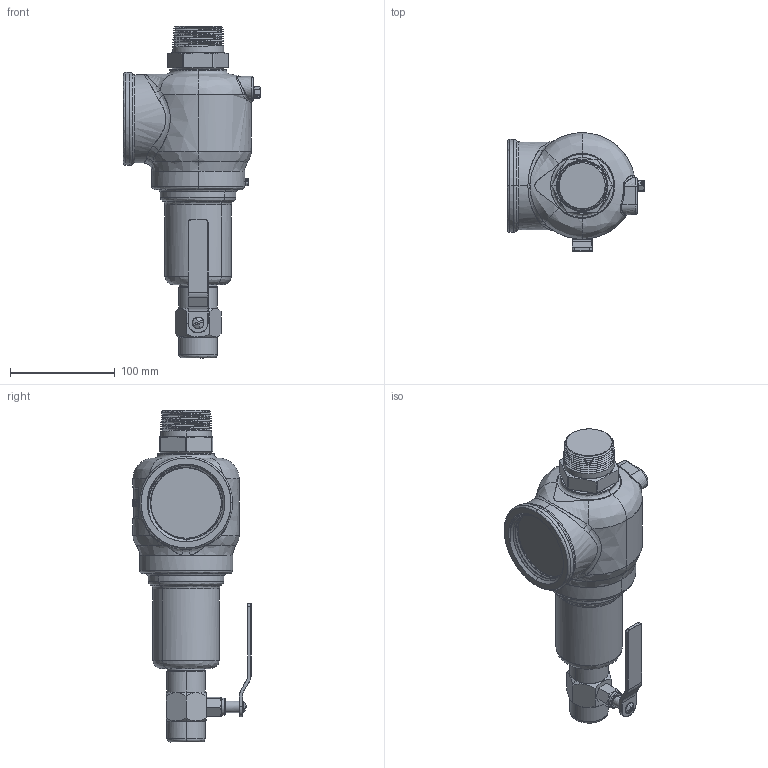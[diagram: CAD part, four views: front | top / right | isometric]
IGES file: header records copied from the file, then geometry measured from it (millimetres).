
Start section: SolidWorks IGES file using NURBS representation for surfaces
Global section: file name: C:\Design\Design\Aquatrol\Customer 3D Files\Series 740 Customer Files\H Orifice\Customer\Iges Files\Series 740 H 1500 x 2500 Packed Lever.IGS; native system: SolidWorks 2015; preprocessor: SolidWorks 2015; author: Karl; date: 150515.104052; units: inch
Bounding box: 131.74 x 112.92 x 317.49 mm (x, y, z)
Surface area: 101452.2 mm2 (no closed solid volume)
Topology: 0 solids, 0 shells, 423 faces, 7742 edges, 7742 vertices
Faces by surface type: bspline 423
